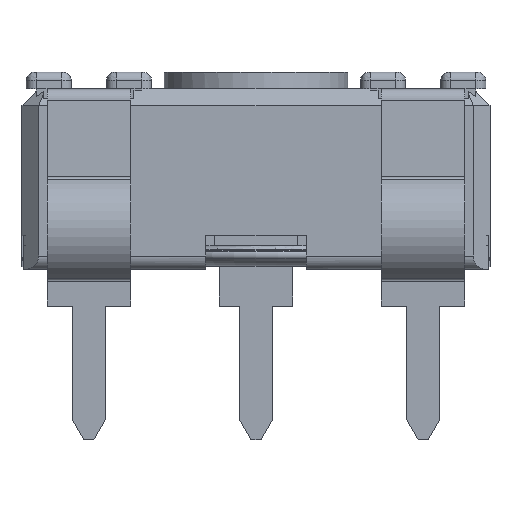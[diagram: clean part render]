
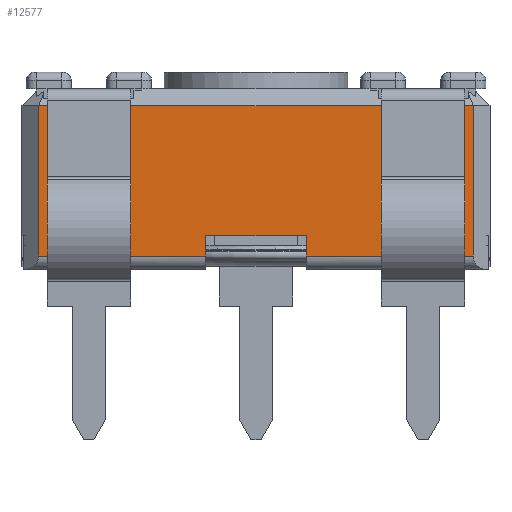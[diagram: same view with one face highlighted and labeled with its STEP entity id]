
A CAD part, front view. The second image highlights one B-rep face of the part: STEP entity #12577.
In plain terms, the highlighted planar face has unit normal (0, -1, 0).
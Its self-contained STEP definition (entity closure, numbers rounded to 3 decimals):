
#1250=FACE_OUTER_BOUND('',#1882,.T.);
#1882=EDGE_LOOP('',(#10609,#10610,#10611,#10612,#10613,#10614,#10615,#10616));
#2829=LINE('',#19718,#4132);
#2837=LINE('',#19735,#4140);
#2854=LINE('',#19778,#4157);
#2855=LINE('',#19783,#4158);
#3131=LINE('',#20572,#4434);
#3143=LINE('',#20594,#4446);
#3165=LINE('',#20645,#4468);
#3169=LINE('',#20651,#4472);
#4132=VECTOR('',#15915,10.);
#4140=VECTOR('',#15927,10.);
#4157=VECTOR('',#15964,10.);
#4158=VECTOR('',#15971,10.);
#4434=VECTOR('',#16697,10.);
#4446=VECTOR('',#16719,10.);
#4468=VECTOR('',#16765,10.);
#4472=VECTOR('',#16773,10.);
#5367=VERTEX_POINT('',#19715);
#5368=VERTEX_POINT('',#19717);
#5375=VERTEX_POINT('',#19733);
#5390=VERTEX_POINT('',#19775);
#5391=VERTEX_POINT('',#19777);
#5392=VERTEX_POINT('',#19781);
#5648=VERTEX_POINT('',#20571);
#5660=VERTEX_POINT('',#20643);
#6908=EDGE_CURVE('',#5367,#5368,#2829,.T.);
#6917=EDGE_CURVE('',#5367,#5375,#2837,.T.);
#6938=EDGE_CURVE('',#5390,#5391,#2854,.T.);
#6941=EDGE_CURVE('',#5391,#5392,#2855,.T.);
#7325=EDGE_CURVE('',#5648,#5368,#3131,.T.);
#7337=EDGE_CURVE('',#5390,#5648,#3143,.T.);
#7360=EDGE_CURVE('',#5660,#5375,#3165,.T.);
#7364=EDGE_CURVE('',#5392,#5660,#3169,.T.);
#10609=ORIENTED_EDGE('',*,*,#6908,.F.);
#10610=ORIENTED_EDGE('',*,*,#6917,.T.);
#10611=ORIENTED_EDGE('',*,*,#7360,.F.);
#10612=ORIENTED_EDGE('',*,*,#7364,.F.);
#10613=ORIENTED_EDGE('',*,*,#6941,.F.);
#10614=ORIENTED_EDGE('',*,*,#6938,.F.);
#10615=ORIENTED_EDGE('',*,*,#7337,.T.);
#10616=ORIENTED_EDGE('',*,*,#7325,.T.);
#11374=PLANE('',#13601);
#12577=ADVANCED_FACE('',(#1250),#11374,.T.);
#13601=AXIS2_PLACEMENT_3D('',#20650,#16771,#16772);
#15915=DIRECTION('',(-1.,0.,0.));
#15927=DIRECTION('',(0.,0.,1.));
#15964=DIRECTION('',(0.,0.,-1.));
#15971=DIRECTION('',(-1.,0.,0.));
#16697=DIRECTION('',(0.,0.,-1.));
#16719=DIRECTION('',(1.,0.,0.));
#16765=DIRECTION('',(1.,0.,0.));
#16771=DIRECTION('center_axis',(0.,-1.,0.));
#16772=DIRECTION('ref_axis',(1.,0.,0.));
#16773=DIRECTION('',(0.,0.,1.));
#19715=CARTESIAN_POINT('',(-3.655,0.3,-0.6));
#19717=CARTESIAN_POINT('',(-8.655,0.3,-0.6));
#19718=CARTESIAN_POINT('',(-11.325,0.3,-0.6));
#19733=CARTESIAN_POINT('',(-3.655,0.3,3.9));
#19735=CARTESIAN_POINT('',(-3.655,0.3,0.));
#19775=CARTESIAN_POINT('',(-11.655,0.3,0.));
#19777=CARTESIAN_POINT('',(-11.655,0.3,-0.6));
#19778=CARTESIAN_POINT('',(-11.655,0.3,-0.3));
#19781=CARTESIAN_POINT('',(-16.655,0.3,-0.6));
#19783=CARTESIAN_POINT('',(-15.484,0.3,-0.6));
#20571=CARTESIAN_POINT('',(-8.655,0.3,0.));
#20572=CARTESIAN_POINT('',(-8.655,0.3,0.));
#20594=CARTESIAN_POINT('',(-16.655,0.3,0.));
#20643=CARTESIAN_POINT('',(-16.655,0.3,3.9));
#20645=CARTESIAN_POINT('',(-13.405,0.3,3.9));
#20650=CARTESIAN_POINT('Origin',(-16.655,0.3,0.));
#20651=CARTESIAN_POINT('',(-16.655,0.3,0.));
